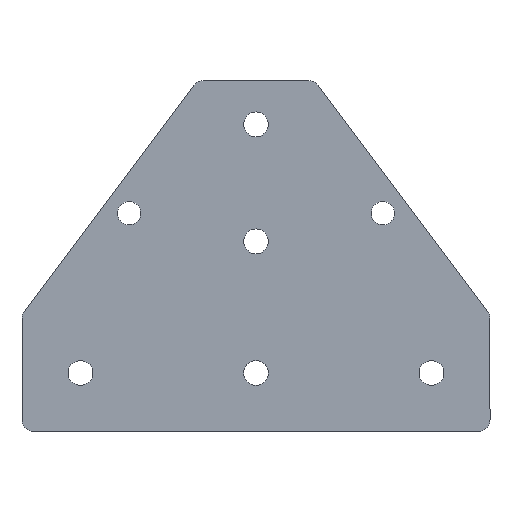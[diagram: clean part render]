
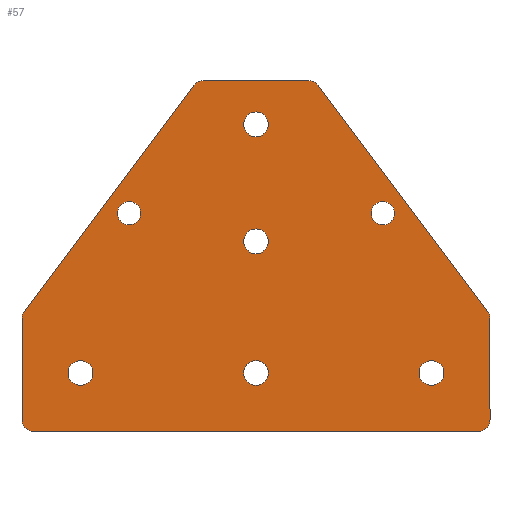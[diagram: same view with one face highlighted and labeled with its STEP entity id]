
A CAD part, top view. The second image highlights one B-rep face of the part: STEP entity #57.
In plain terms, the highlighted planar face has unit normal (0, 0, 1).
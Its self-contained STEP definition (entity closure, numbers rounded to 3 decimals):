
#57=ADVANCED_FACE('',(#258,#260,#262,#264,#266,#268,#270,#272),#274,.T.);
#258=FACE_BOUND('',#259,.T.);
#259=EDGE_LOOP('',(#445,#446,#447,#448,#449,#450,#451,#452,#453,#454,#455,#456));
#260=FACE_BOUND('',#261,.T.);
#261=EDGE_LOOP('',(#457));
#262=FACE_BOUND('',#263,.T.);
#263=EDGE_LOOP('',(#458));
#264=FACE_BOUND('',#265,.T.);
#265=EDGE_LOOP('',(#459));
#266=FACE_BOUND('',#267,.T.);
#267=EDGE_LOOP('',(#460));
#268=FACE_BOUND('',#269,.T.);
#269=EDGE_LOOP('',(#461));
#270=FACE_BOUND('',#271,.T.);
#271=EDGE_LOOP('',(#462));
#272=FACE_BOUND('',#273,.T.);
#273=EDGE_LOOP('',(#463));
#274=PLANE('',#275);
#275=AXIS2_PLACEMENT_3D('',#276,#277,#278);
#276=CARTESIAN_POINT('',(0.,0.,4.));
#277=DIRECTION('',(0.,0.,1.));
#278=DIRECTION('',(-1.,0.,0.));
#445=ORIENTED_EDGE('',*,*,#545,.T.);
#446=ORIENTED_EDGE('',*,*,#546,.T.);
#447=ORIENTED_EDGE('',*,*,#547,.T.);
#448=ORIENTED_EDGE('',*,*,#548,.T.);
#449=ORIENTED_EDGE('',*,*,#549,.T.);
#450=ORIENTED_EDGE('',*,*,#550,.T.);
#451=ORIENTED_EDGE('',*,*,#551,.T.);
#452=ORIENTED_EDGE('',*,*,#552,.T.);
#453=ORIENTED_EDGE('',*,*,#553,.T.);
#454=ORIENTED_EDGE('',*,*,#554,.T.);
#455=ORIENTED_EDGE('',*,*,#555,.T.);
#456=ORIENTED_EDGE('',*,*,#556,.T.);
#457=ORIENTED_EDGE('',*,*,#557,.T.);
#458=ORIENTED_EDGE('',*,*,#558,.T.);
#459=ORIENTED_EDGE('',*,*,#559,.T.);
#460=ORIENTED_EDGE('',*,*,#560,.T.);
#461=ORIENTED_EDGE('',*,*,#561,.T.);
#462=ORIENTED_EDGE('',*,*,#562,.T.);
#463=ORIENTED_EDGE('',*,*,#563,.T.);
#545=EDGE_CURVE('',#614,#615,#616,.T.);
#546=EDGE_CURVE('',#615,#617,#618,.T.);
#547=EDGE_CURVE('',#617,#619,#620,.T.);
#548=EDGE_CURVE('',#619,#621,#622,.T.);
#549=EDGE_CURVE('',#621,#623,#624,.T.);
#550=EDGE_CURVE('',#623,#625,#626,.T.);
#551=EDGE_CURVE('',#625,#627,#628,.T.);
#552=EDGE_CURVE('',#627,#629,#630,.T.);
#553=EDGE_CURVE('',#629,#631,#632,.T.);
#554=EDGE_CURVE('',#631,#633,#634,.T.);
#555=EDGE_CURVE('',#633,#635,#636,.T.);
#556=EDGE_CURVE('',#635,#614,#637,.T.);
#557=EDGE_CURVE('',#638,#638,#639,.F.);
#558=EDGE_CURVE('',#640,#640,#641,.F.);
#559=EDGE_CURVE('',#642,#642,#643,.F.);
#560=EDGE_CURVE('',#644,#644,#645,.F.);
#561=EDGE_CURVE('',#646,#646,#647,.F.);
#562=EDGE_CURVE('',#648,#648,#649,.F.);
#563=EDGE_CURVE('',#650,#650,#651,.F.);
#614=VERTEX_POINT('',#753);
#615=VERTEX_POINT('',#754);
#616=CIRCLE('',#755,4.);
#617=VERTEX_POINT('',#759);
#618=LINE('',#760,#761);
#619=VERTEX_POINT('',#763);
#620=CIRCLE('',#764,4.);
#621=VERTEX_POINT('',#768);
#622=LINE('',#769,#770);
#623=VERTEX_POINT('',#772);
#624=CIRCLE('',#773,4.);
#625=VERTEX_POINT('',#777);
#626=LINE('',#778,#779);
#627=VERTEX_POINT('',#781);
#628=CIRCLE('',#782,4.);
#629=VERTEX_POINT('',#786);
#630=LINE('',#787,#788);
#631=VERTEX_POINT('',#790);
#632=CIRCLE('',#791,4.);
#633=VERTEX_POINT('',#795);
#634=LINE('',#796,#797);
#635=VERTEX_POINT('',#799);
#636=CIRCLE('',#800,4.);
#637=LINE('',#804,#805);
#638=VERTEX_POINT('',#807);
#639=CIRCLE('',#808,4.25);
#640=VERTEX_POINT('',#812);
#641=CIRCLE('',#813,4.25);
#642=VERTEX_POINT('',#817);
#643=CIRCLE('',#818,4.25);
#644=VERTEX_POINT('',#822);
#645=CIRCLE('',#823,4.25);
#646=VERTEX_POINT('',#827);
#647=CIRCLE('',#828,4.25);
#648=VERTEX_POINT('',#832);
#649=CIRCLE('',#833,4.);
#650=VERTEX_POINT('',#837);
#651=CIRCLE('',#838,4.);
#753=CARTESIAN_POINT('',(76.,0.,4.));
#754=CARTESIAN_POINT('',(80.,4.,4.));
#755=AXIS2_PLACEMENT_3D('',#756,#757,#758);
#756=CARTESIAN_POINT('',(76.,4.,4.));
#757=DIRECTION('',(0.,0.,1.));
#758=DIRECTION('',(0.,-1.,0.));
#759=CARTESIAN_POINT('',(80.,38.667,4.));
#760=CARTESIAN_POINT('',(80.,4.,4.));
#761=VECTOR('',#762,1.);
#762=DIRECTION('',(0.,1.,0.));
#763=CARTESIAN_POINT('',(79.2,41.067,4.));
#764=AXIS2_PLACEMENT_3D('',#765,#766,#767);
#765=CARTESIAN_POINT('',(76.,38.667,4.));
#766=DIRECTION('',(0.,0.,1.));
#767=DIRECTION('',(1.,0.,0.));
#768=CARTESIAN_POINT('',(21.2,118.4,4.));
#769=CARTESIAN_POINT('',(79.2,41.067,4.));
#770=VECTOR('',#771,1.);
#771=DIRECTION('',(-0.6,0.8,0.));
#772=CARTESIAN_POINT('',(18.,120.,4.));
#773=AXIS2_PLACEMENT_3D('',#774,#775,#776);
#774=CARTESIAN_POINT('',(18.,116.,4.));
#775=DIRECTION('',(0.,0.,1.));
#776=DIRECTION('',(0.8,0.6,0.));
#777=CARTESIAN_POINT('',(-18.,120.,4.));
#778=CARTESIAN_POINT('',(18.,120.,4.));
#779=VECTOR('',#780,1.);
#780=DIRECTION('',(-1.,0.,0.));
#781=CARTESIAN_POINT('',(-21.2,118.4,4.));
#782=AXIS2_PLACEMENT_3D('',#783,#784,#785);
#783=CARTESIAN_POINT('',(-18.,116.,4.));
#784=DIRECTION('',(0.,0.,1.));
#785=DIRECTION('',(0.,1.,0.));
#786=CARTESIAN_POINT('',(-79.2,41.067,4.));
#787=CARTESIAN_POINT('',(-21.2,118.4,4.));
#788=VECTOR('',#789,1.);
#789=DIRECTION('',(-0.6,-0.8,0.));
#790=CARTESIAN_POINT('',(-80.,38.667,4.));
#791=AXIS2_PLACEMENT_3D('',#792,#793,#794);
#792=CARTESIAN_POINT('',(-76.,38.667,4.));
#793=DIRECTION('',(0.,0.,1.));
#794=DIRECTION('',(-0.8,0.6,0.));
#795=CARTESIAN_POINT('',(-80.,4.,4.));
#796=CARTESIAN_POINT('',(-80.,38.667,4.));
#797=VECTOR('',#798,1.);
#798=DIRECTION('',(0.,-1.,0.));
#799=CARTESIAN_POINT('',(-76.,0.,4.));
#800=AXIS2_PLACEMENT_3D('',#801,#802,#803);
#801=CARTESIAN_POINT('',(-76.,4.,4.));
#802=DIRECTION('',(0.,0.,1.));
#803=DIRECTION('',(-1.,0.,0.));
#804=CARTESIAN_POINT('',(-76.,0.,4.));
#805=VECTOR('',#806,1.);
#806=DIRECTION('',(1.,0.,0.));
#807=CARTESIAN_POINT('',(-64.25,20.,4.));
#808=AXIS2_PLACEMENT_3D('',#809,#810,#811);
#809=CARTESIAN_POINT('',(-60.,20.,4.));
#810=DIRECTION('',(0.,0.,1.));
#811=DIRECTION('',(-1.,0.,0.));
#812=CARTESIAN_POINT('',(55.75,20.,4.));
#813=AXIS2_PLACEMENT_3D('',#814,#815,#816);
#814=CARTESIAN_POINT('',(60.,20.,4.));
#815=DIRECTION('',(0.,0.,1.));
#816=DIRECTION('',(-1.,0.,0.));
#817=CARTESIAN_POINT('',(-4.25,65.,4.));
#818=AXIS2_PLACEMENT_3D('',#819,#820,#821);
#819=CARTESIAN_POINT('',(0.,65.,4.));
#820=DIRECTION('',(0.,0.,1.));
#821=DIRECTION('',(-1.,0.,0.));
#822=CARTESIAN_POINT('',(-4.25,20.,4.));
#823=AXIS2_PLACEMENT_3D('',#824,#825,#826);
#824=CARTESIAN_POINT('',(0.,20.,4.));
#825=DIRECTION('',(0.,0.,1.));
#826=DIRECTION('',(-1.,0.,0.));
#827=CARTESIAN_POINT('',(-4.25,105.,4.));
#828=AXIS2_PLACEMENT_3D('',#829,#830,#831);
#829=CARTESIAN_POINT('',(0.,105.,4.));
#830=DIRECTION('',(0.,0.,1.));
#831=DIRECTION('',(-1.,0.,0.));
#832=CARTESIAN_POINT('',(-43.4,78.633,4.));
#833=AXIS2_PLACEMENT_3D('',#834,#835,#836);
#834=CARTESIAN_POINT('',(-43.4,74.633,4.));
#835=DIRECTION('',(0.,0.,1.));
#836=DIRECTION('',(0.,1.,0.));
#837=CARTESIAN_POINT('',(43.4,78.633,4.));
#838=AXIS2_PLACEMENT_3D('',#839,#840,#841);
#839=CARTESIAN_POINT('',(43.4,74.633,4.));
#840=DIRECTION('',(0.,0.,1.));
#841=DIRECTION('',(0.,1.,0.));
